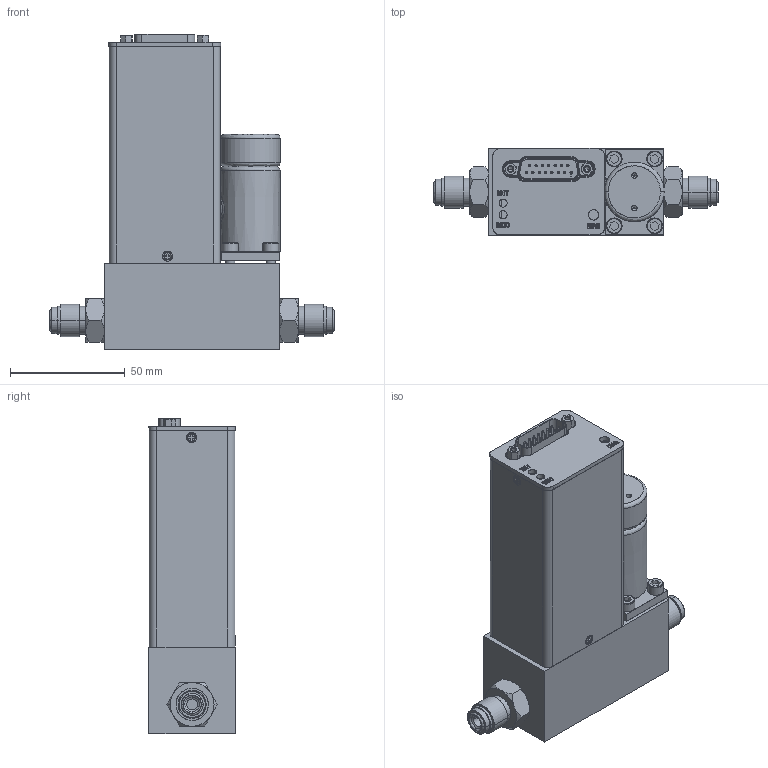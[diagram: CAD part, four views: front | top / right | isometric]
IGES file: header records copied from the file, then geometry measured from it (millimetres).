
Start section: SolidWorks IGES file using analytic representation for surfaces
Global section: file name: G:\Engineering\CAD MODELS FOR SALES\CAD MODEL STORAGE\SLA\SLA5850\IGES\SLA5850-A-1E-1-B_REVB.IGS; native system: SolidWorks 2020; preprocessor: SolidWorks 2020; author: CFehr; date: 240223.151437; units: inch
Bounding box: 124.1 x 37.86 x 137.39 mm (x, y, z)
Surface area: 87964.2 mm2 (no closed solid volume)
Topology: 0 solids, 0 shells, 1297 faces, 15277 edges, 15263 vertices
Faces by surface type: bspline 764, revolution 533
